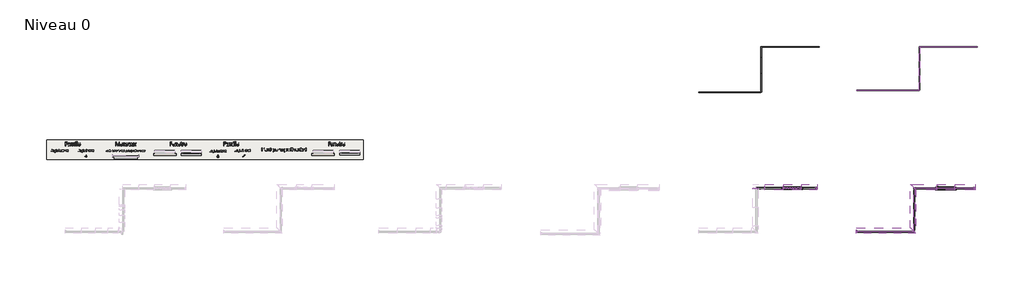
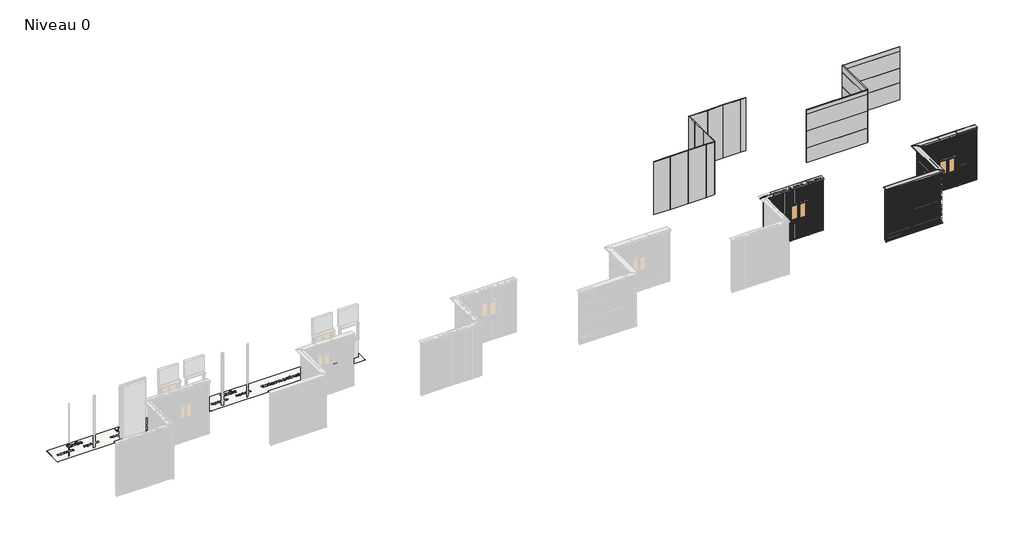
# One storey, part 3 of 11: 41 plates, 29 members, 2 doors, 1 slab.
"""IFC4 building model written with IfcOpenShell, lengths in millimetres."""

from ifc_helpers import new_model, si_unit, frame, origin, place, context, project, spatial, polyline, outline, extrude, transform, mapped, element, save
from components import door_b409336b, door_0b4cebd2, meneau_rectangulaire_6b71f10b, meneau_rectangulaire_8405fecf, meneau_rectangulaire_0b3fcaf2, meneau_rectangulaire_553c7b44, meneau_rectangulaire_d3c7e20c, meneau_rectangulaire_d9416821, meneau_rectangulaire_bee88b2e, meneau_rectangulaire_ce6fec79, meneau_rectangulaire_491e6442, meneau_rectangulaire_9f40be5e, meneau_rectangulaire_91452ccf, meneau_rectangulaire_bas_de_facade_ff95f192, meneau_rectangulaire_bas_de_facade_5461298e, meneau_rectangulaire_bas_de_facade_054009f9, meneau_rectangulaire_bas_de_facade_1d348fc8, meneau_rectangulaire_bas_de_facade_e5fd763a, meneau_rectangulaire_bas_de_facade_78978f85, meneau_rectangulaire_bas_de_facade_dee41482, meneau_rectangulaire_bas_de_facade_3b02e56c, meneau_rectangulaire_haut_de_facade_54da1b67, meneau_rectangulaire_haut_de_facade_ceb95911, meneau_rectangulaire_haut_de_facade_83064606, meneau_rectangulaire_haut_de_facade_178c63db, meneau_rectangulaire_haut_de_facade_870d9ed5, meneau_rectangulaire_haut_de_facade_2435eed7, meneau_rectangulaire_haut_de_facade_b95a2ae0, meneau_rectangulaire_haut_de_facade_bf85a0af, plate_5120cc5c, plate_49844953, plate_625db6d0, plate_4867db41, plate_2e5b18d4, plate_431ae45b, plate_deeb19b2, plate_08428244, plate_7a7fec68, plate_c9ebe30d, plate_4cf631f9, plate_eb6396ea, plate_7ffcf5e8, plate_bbb39bd2, plate_3f4dd61e, plate_1a5d1da6, plate_54f94469, plate_fe0d37fc, plate_24f3a5ca, plate_9217dd34, plate_2d8520f8, plate_d7f294a5, plate_44dc55b0, plate_702065da, plate_ffdc8044, plate_e4cf7329, plate_2c54484f, plate_bf433b23, plate_98138fe8, plate_133e5fcb, plate_95de40c8, plate_a48b8e76

model = new_model("IFC4")

# Units and contexts
model_context = context("Model", 3, world=origin())
ifc_project = project(units=[si_unit("LENGTHUNIT", "METRE", prefix="MILLI")], contexts=[model_context])

# Site, building, storey
site = spatial("IfcSite", under=ifc_project)
building = spatial("IfcBuilding", under=site)
storey = spatial("IfcBuildingStorey", under=building, Name="Niveau 0", Elevation=0.0)

# Doors
placement = place(None, origin())
door_shape = door_b409336b(model_context)
element("IfcDoor", 1, ObjectType="Fenetre pour Tenda V : Fenetre pour Tenda V", at=placement, inside=storey, context=model_context, shape_type="MappedRepresentation", body=[
    mapped(door_shape, transform((37696.6404896, -16882.8730274, 966.6666667), x_axis=(-1.0, 0.0, 0.0), y_axis=(0.0, -1.0, 0.0), z_axis=(0.0, 0.0, 1.0))),
])
door_2_shape = door_0b4cebd2(model_context)
element("IfcDoor", 2, ObjectType="Fenetre pour Tenda Horizontal : Fenetre pour Tenda H", at=placement, inside=storey, context=model_context, shape_type="MappedRepresentation", body=[
    mapped(door_2_shape, transform((45446.2392223, -16884.8319197, 743.0), x_axis=(-1.0, 0.0, 0.0), y_axis=(0.0, -1.0, 0.0), z_axis=(0.0, 0.0, 1.0))),
])

# Members
meneau_rectangulaire_shape = meneau_rectangulaire_6b71f10b(model_context)
element("IfcMember", 3, ObjectType="Meneau rectangulaire : Jonction contre mur Gauche H", at=placement, inside=storey, context=model_context, shape_type="MappedRepresentation", body=[
    mapped(meneau_rectangulaire_shape, transform((40939.5725557, -19085.1695288, 1887.0), x_axis=(-1.0, 0.0, 0.0), y_axis=(0.0, 1.0, 0.0), z_axis=(0.0, 0.0, -1.0))),
])
meneau_rectangulaire_2_shape = meneau_rectangulaire_8405fecf(model_context)
element("IfcMember", 4, ObjectType="Meneau rectangulaire : Jonction contre mur Gauche H", at=placement, inside=storey, context=model_context, shape_type="MappedRepresentation", body=[
    mapped(meneau_rectangulaire_2_shape, transform((40939.5725557, -19085.1695288, 959.0), x_axis=(-1.0, 0.0, 0.0), y_axis=(0.0, 1.0, 0.0), z_axis=(0.0, 0.0, -1.0))),
])
meneau_rectangulaire_3_shape = meneau_rectangulaire_0b3fcaf2(model_context)
element("IfcMember", 5, ObjectType="Meneau rectangulaire : Jonction contre mur Droite H", at=placement, inside=storey, context=model_context, shape_type="MappedRepresentation", body=[
    mapped(meneau_rectangulaire_3_shape, transform((46939.5725557, -16884.8319197, 2472.0), x_axis=(1.0, 0.0, 0.0), y_axis=(0.0, 1.0, 0.0), z_axis=(0.0, 0.0, 1.0))),
])
meneau_rectangulaire_4_shape = meneau_rectangulaire_553c7b44(model_context)
element("IfcMember", 6, ObjectType="Meneau rectangulaire : Jonction contre mur Droite H", at=placement, inside=storey, context=model_context, shape_type="MappedRepresentation", body=[
    mapped(meneau_rectangulaire_4_shape, transform((46939.5725557, -16884.8319197, 1671.0), x_axis=(1.0, 0.0, 0.0), y_axis=(0.0, 1.0, 0.0), z_axis=(0.0, 0.0, 1.0))),
])
meneau_rectangulaire_5_shape = meneau_rectangulaire_d3c7e20c(model_context)
element("IfcMember", 7, ObjectType="Meneau rectangulaire : Jonction contre mur Droite V", at=placement, inside=storey, context=model_context, shape_type="MappedRepresentation", body=[
    mapped(meneau_rectangulaire_5_shape, transform((38961.6404896, -16882.8730274, 1933.3333333), x_axis=(1.0, 0.0, 0.0), y_axis=(0.0, 1.0, 0.0), z_axis=(0.0, 0.0, 1.0))),
])
meneau_rectangulaire_6_shape = meneau_rectangulaire_d9416821(model_context)
element("IfcMember", 8, ObjectType="Meneau rectangulaire : Jonction contre mur Droite V", at=placement, inside=storey, context=model_context, shape_type="MappedRepresentation", body=[
    mapped(meneau_rectangulaire_6_shape, transform((38961.6404896, -16882.8730274, 966.6666667), x_axis=(1.0, 0.0, 0.0), y_axis=(0.0, 1.0, 0.0), z_axis=(0.0, 0.0, 1.0))),
])
meneau_rectangulaire_7_shape = meneau_rectangulaire_bee88b2e(model_context)
element("IfcMember", 9, ObjectType="Meneau rectangulaire : Jonction contre mur Droite H", at=placement, inside=storey, context=model_context, shape_type="MappedRepresentation", body=[
    mapped(meneau_rectangulaire_7_shape, transform((46939.5725557, -16884.8319197, 743.0), x_axis=(1.0, 0.0, 0.0), y_axis=(0.0, 1.0, 0.0), z_axis=(0.0, 0.0, 1.0))),
])
meneau_rectangulaire_8_shape = meneau_rectangulaire_ce6fec79(model_context)
element("IfcMember", 10, ObjectType="Meneau rectangulaire : Jonction contre mur Gauche H", at=placement, inside=storey, context=model_context, shape_type="MappedRepresentation", body=[
    mapped(meneau_rectangulaire_8_shape, transform((40939.5725557, -19085.1695288, 57.8548383), x_axis=(-1.0, 0.0, 0.0), y_axis=(0.0, 1.0, 0.0), z_axis=(0.0, 0.0, -1.0))),
])
meneau_rectangulaire_9_shape = meneau_rectangulaire_491e6442(model_context)
element("IfcMember", 11, ObjectType="Meneau rectangulaire : Jonction contre mur Droite V", at=placement, inside=storey, context=model_context, shape_type="MappedRepresentation", body=[
    mapped(meneau_rectangulaire_9_shape, transform((38961.6404896, -16882.8730274, 2819.0), x_axis=(1.0, 0.0, 0.0), y_axis=(0.0, 1.0, 0.0), z_axis=(0.0, 0.0, 1.0))),
])
meneau_rectangulaire_10_shape = meneau_rectangulaire_9f40be5e(model_context)
element("IfcMember", 12, ObjectType="Meneau rectangulaire : Jonction contre mur Gauche H", at=placement, inside=storey, context=model_context, shape_type="MappedRepresentation", body=[
    mapped(meneau_rectangulaire_10_shape, transform((40939.5725557, -19085.1695288, 2688.0), x_axis=(-1.0, 0.0, 0.0), y_axis=(0.0, 1.0, 0.0), z_axis=(0.0, 0.0, -1.0))),
])
meneau_rectangulaire_11_shape = meneau_rectangulaire_91452ccf(model_context)
element("IfcMember", 13, ObjectType="Meneau rectangulaire : Jonction contre mur Droite H", at=placement, inside=storey, context=model_context, shape_type="MappedRepresentation", body=[
    mapped(meneau_rectangulaire_11_shape, transform((46939.5725557, -16884.8319197, 2819.0), x_axis=(1.0, 0.0, 0.0), y_axis=(0.0, 1.0, 0.0), z_axis=(0.0, 0.0, 1.0))),
])
meneau_rectangulaire_bas_de_facade_shape = meneau_rectangulaire_bas_de_facade_ff95f192(model_context)
element("IfcMember", 14, ObjectType="Meneau rectangulaire : Bas de facade", at=placement, inside=storey, context=model_context, shape_type="MappedRepresentation", body=[
    mapped(meneau_rectangulaire_bas_de_facade_shape, transform((37232.6404896, -16882.8730274, 0.0), x_axis=(0.0, 0.0, -1.0), y_axis=(0.0, 1.0, 0.0), z_axis=(1.0, 0.0, 0.0))),
])
element("IfcMember", 15, ObjectType="Meneau rectangulaire : Bas de facade", at=placement, inside=storey, context=model_context, shape_type="MappedRepresentation", body=[
    mapped(meneau_rectangulaire_bas_de_facade_shape, transform((38160.6404896, -16882.8730274, 0.0), x_axis=(0.0, 0.0, -1.0), y_axis=(0.0, 1.0, 0.0), z_axis=(1.0, 0.0, 0.0))),
])
meneau_rectangulaire_bas_de_facade_2_shape = meneau_rectangulaire_bas_de_facade_5461298e(model_context)
element("IfcMember", 16, ObjectType="Meneau rectangulaire : Bas de facade", at=placement, inside=storey, context=model_context, shape_type="MappedRepresentation", body=[
    mapped(meneau_rectangulaire_bas_de_facade_2_shape, transform((45906.2392223, -16884.8319197, 0.0), x_axis=(0.0, 0.0, -1.0), y_axis=(0.0, 1.0, 0.0), z_axis=(1.0, 0.0, 0.0))),
])
meneau_rectangulaire_bas_de_facade_3_shape = meneau_rectangulaire_bas_de_facade_054009f9(model_context)
element("IfcMember", 17, ObjectType="Meneau rectangulaire : Bas de facade", at=placement, inside=storey, context=model_context, shape_type="MappedRepresentation", body=[
    mapped(meneau_rectangulaire_bas_de_facade_3_shape, transform((38961.6404896, -16882.8730274, 0.0), x_axis=(0.0, 0.0, -1.0), y_axis=(0.0, 1.0, 0.0), z_axis=(1.0, 0.0, 0.0))),
])
meneau_rectangulaire_bas_de_facade_4_shape = meneau_rectangulaire_bas_de_facade_1d348fc8(model_context)
element("IfcMember", 18, ObjectType="Meneau rectangulaire : Bas de facade", at=placement, inside=storey, context=model_context, shape_type="MappedRepresentation", body=[
    mapped(meneau_rectangulaire_bas_de_facade_4_shape, transform((46939.5725557, -16884.8319197, 0.0), x_axis=(0.0, 0.0, -1.0), y_axis=(0.0, 1.0, 0.0), z_axis=(1.0, 0.0, 0.0))),
])
meneau_rectangulaire_bas_de_facade_5_shape = meneau_rectangulaire_bas_de_facade_e5fd763a(model_context)
element("IfcMember", 19, ObjectType="Meneau rectangulaire : Bas de facade", at=placement, inside=storey, context=model_context, shape_type="MappedRepresentation", body=[
    mapped(meneau_rectangulaire_bas_de_facade_5_shape, transform((36304.6404896, -16882.8730274, 0.0), x_axis=(0.0, 0.0, -1.0), y_axis=(0.0, 1.0, 0.0), z_axis=(1.0, 0.0, 0.0))),
])
meneau_rectangulaire_bas_de_facade_6_shape = meneau_rectangulaire_bas_de_facade_78978f85(model_context)
element("IfcMember", 20, ObjectType="Meneau rectangulaire : Bas de facade", at=placement, inside=storey, context=model_context, shape_type="MappedRepresentation", body=[
    mapped(meneau_rectangulaire_bas_de_facade_6_shape, transform((43839.5725557, -19085.1695288, 0.0), x_axis=(0.0, 0.0, -1.0), y_axis=(0.0, 1.0, 0.0), z_axis=(1.0, 0.0, 0.0))),
])
meneau_rectangulaire_bas_de_facade_7_shape = meneau_rectangulaire_bas_de_facade_dee41482(model_context)
element("IfcMember", 21, ObjectType="Meneau rectangulaire : Bas de facade", at=placement, inside=storey, context=model_context, shape_type="MappedRepresentation", body=[
    mapped(meneau_rectangulaire_bas_de_facade_7_shape, transform((43839.5725557, -16884.8319197, 0.0), x_axis=(0.0, 0.0, -1.0), y_axis=(-1.0, 0.0, 0.0), z_axis=(0.0, 1.0, 0.0))),
])
meneau_rectangulaire_bas_de_facade_8_shape = meneau_rectangulaire_bas_de_facade_3b02e56c(model_context)
element("IfcMember", 22, ObjectType="Meneau rectangulaire : Bas de facade", at=placement, inside=storey, context=model_context, shape_type="MappedRepresentation", body=[
    mapped(meneau_rectangulaire_bas_de_facade_8_shape, transform((44986.2392223, -16884.8319197, 0.0), x_axis=(0.0, 0.0, -1.0), y_axis=(0.0, 1.0, 0.0), z_axis=(1.0, 0.0, 0.0))),
])
meneau_rectangulaire_haut_de_facade_shape = meneau_rectangulaire_haut_de_facade_54da1b67(model_context)
element("IfcMember", 23, ObjectType="Meneau rectangulaire : Haut de facade", at=placement, inside=storey, context=model_context, shape_type="MappedRepresentation", body=[
    mapped(meneau_rectangulaire_haut_de_facade_shape, transform((36304.6404896, -16882.8730274, 2900.0), x_axis=(0.0, 0.0, 1.0), y_axis=(0.0, 1.0, 0.0), z_axis=(-1.0, 0.0, 0.0))),
])
element("IfcMember", 24, ObjectType="Meneau rectangulaire : Haut de facade", at=placement, inside=storey, context=model_context, shape_type="MappedRepresentation", body=[
    mapped(meneau_rectangulaire_haut_de_facade_shape, transform((37232.6404896, -16882.8730274, 2900.0), x_axis=(0.0, 0.0, 1.0), y_axis=(0.0, 1.0, 0.0), z_axis=(-1.0, 0.0, 0.0))),
])
meneau_rectangulaire_haut_de_facade_2_shape = meneau_rectangulaire_haut_de_facade_ceb95911(model_context)
element("IfcMember", 25, ObjectType="Meneau rectangulaire : Haut de facade", at=placement, inside=storey, context=model_context, shape_type="MappedRepresentation", body=[
    mapped(meneau_rectangulaire_haut_de_facade_2_shape, transform((44986.2392223, -16884.8319197, 2900.0), x_axis=(0.0, 0.0, 1.0), y_axis=(0.0, 1.0, 0.0), z_axis=(-1.0, 0.0, 0.0))),
])
meneau_rectangulaire_haut_de_facade_3_shape = meneau_rectangulaire_haut_de_facade_83064606(model_context)
element("IfcMember", 26, ObjectType="Meneau rectangulaire : Haut de facade", at=placement, inside=storey, context=model_context, shape_type="MappedRepresentation", body=[
    mapped(meneau_rectangulaire_haut_de_facade_3_shape, transform((38160.6404896, -16882.8730274, 2900.0), x_axis=(0.0, 0.0, 1.0), y_axis=(0.0, 1.0, 0.0), z_axis=(-1.0, 0.0, 0.0))),
])
meneau_rectangulaire_haut_de_facade_4_shape = meneau_rectangulaire_haut_de_facade_178c63db(model_context)
element("IfcMember", 27, ObjectType="Meneau rectangulaire : Haut de facade", at=placement, inside=storey, context=model_context, shape_type="MappedRepresentation", body=[
    mapped(meneau_rectangulaire_haut_de_facade_4_shape, transform((45906.2392223, -16884.8319197, 2900.0), x_axis=(0.0, 0.0, 1.0), y_axis=(0.0, 1.0, 0.0), z_axis=(-1.0, 0.0, 0.0))),
])
meneau_rectangulaire_haut_de_facade_5_shape = meneau_rectangulaire_haut_de_facade_870d9ed5(model_context)
element("IfcMember", 28, ObjectType="Meneau rectangulaire : Haut de facade", at=placement, inside=storey, context=model_context, shape_type="MappedRepresentation", body=[
    mapped(meneau_rectangulaire_haut_de_facade_5_shape, transform((35861.6404896, -16957.7373975, 2900.0), x_axis=(0.0, 0.0, 1.0), y_axis=(-1.0, 0.0, 0.0), z_axis=(0.0, -1.0, 0.0))),
])
meneau_rectangulaire_haut_de_facade_6_shape = meneau_rectangulaire_haut_de_facade_2435eed7(model_context)
element("IfcMember", 29, ObjectType="Meneau rectangulaire : Haut de facade", at=placement, inside=storey, context=model_context, shape_type="MappedRepresentation", body=[
    mapped(meneau_rectangulaire_haut_de_facade_6_shape, transform((40939.5725557, -19085.1695288, 2900.0), x_axis=(0.0, 0.0, 1.0), y_axis=(0.0, 1.0, 0.0), z_axis=(-1.0, 0.0, 0.0))),
])
meneau_rectangulaire_haut_de_facade_7_shape = meneau_rectangulaire_haut_de_facade_b95a2ae0(model_context)
element("IfcMember", 30, ObjectType="Meneau rectangulaire : Haut de facade", at=placement, inside=storey, context=model_context, shape_type="MappedRepresentation", body=[
    mapped(meneau_rectangulaire_haut_de_facade_7_shape, transform((43839.5725557, -19085.1695288, 2900.0), x_axis=(0.0, 0.0, 1.0), y_axis=(-1.0, 0.0, 0.0), z_axis=(0.0, -1.0, 0.0))),
])
meneau_rectangulaire_haut_de_facade_8_shape = meneau_rectangulaire_haut_de_facade_bf85a0af(model_context)
element("IfcMember", 31, ObjectType="Meneau rectangulaire : Haut de facade", at=placement, inside=storey, context=model_context, shape_type="MappedRepresentation", body=[
    mapped(meneau_rectangulaire_haut_de_facade_8_shape, transform((43839.5725557, -16884.8319197, 2900.0), x_axis=(0.0, 0.0, 1.0), y_axis=(0.0, 1.0, 0.0), z_axis=(-1.0, 0.0, 0.0))),
])

# Plates
plate_shape = plate_5120cc5c(model_context)
element("IfcPlate", 32, ObjectType="Lod 200 Regolare 800 Horizontal : Azuro", at=placement, inside=storey, context=model_context, shape_type="MappedRepresentation", body=[
    mapped(plate_shape, transform((44108.0369394, -10835.83192, 0.0), x_axis=(0.0, 1.0, 0.0), y_axis=(-1.0, 0.0, 0.0), z_axis=(0.0, 0.0, 1.0))),
])
element("IfcPlate", 33, ObjectType="Lod 200 Regolare 800 Horizontal : Azuro", at=placement, inside=storey, context=model_context, shape_type="MappedRepresentation", body=[
    mapped(plate_shape, transform((44108.0369394, -10835.83192, 1730.0), x_axis=(0.0, 1.0, 0.0), y_axis=(-1.0, 0.0, 0.0), z_axis=(0.0, 0.0, 1.0))),
])
plate_2_shape = plate_49844953(model_context)
element("IfcPlate", 34, ObjectType="Lod 200 Regolare 800 Horizontal : Azuro", at=placement, inside=storey, context=model_context, shape_type="MappedRepresentation", body=[
    mapped(plate_2_shape, transform((44108.0369394, -10835.83192, 2530.0), x_axis=(0.0, 1.0, 0.0), y_axis=(-1.0, 0.0, 0.0), z_axis=(0.0, 0.0, 1.0))),
])
plate_3_shape = plate_625db6d0(model_context)
element("IfcPlate", 35, ObjectType="Lod 200 Regolare 800 Horizontal : Azuro", at=placement, inside=storey, context=model_context, shape_type="MappedRepresentation", body=[
    mapped(plate_3_shape, transform((42535.5369394, -11933.33192, 0.0), x_axis=(1.0, 0.0, 0.0), y_axis=(0.0, 1.0, 0.0), z_axis=(0.0, 0.0, 1.0))),
])
plate_4_shape = plate_4867db41(model_context)
element("IfcPlate", 36, ObjectType="Lod 200 Regolare 800 Horizontal : Azuro", at=placement, inside=storey, context=model_context, shape_type="MappedRepresentation", body=[
    mapped(plate_4_shape, transform((42535.5369394, -11933.33192, 2660.0), x_axis=(1.0, 0.0, 0.0), y_axis=(0.0, 1.0, 0.0), z_axis=(0.0, 0.0, 1.0))),
])
plate_5_shape = plate_2e5b18d4(model_context)
element("IfcPlate", 37, ObjectType="Lod 200 Ritmica 930 Horizontal : Azuro", at=placement, inside=storey, context=model_context, shape_type="MappedRepresentation", body=[
    mapped(plate_5_shape, transform((42535.5369394, -11933.33192, 800.0), x_axis=(1.0, 0.0, 0.0), y_axis=(0.0, 1.0, 0.0), z_axis=(0.0, 0.0, 1.0))),
])
element("IfcPlate", 38, ObjectType="Lod 200 Ritmica 930 Horizontal : Azuro", at=placement, inside=storey, context=model_context, shape_type="MappedRepresentation", body=[
    mapped(plate_5_shape, transform((42535.5369394, -11933.33192, 1730.0), x_axis=(1.0, 0.0, 0.0), y_axis=(0.0, 1.0, 0.0), z_axis=(0.0, 0.0, 1.0))),
])
plate_6_shape = plate_431ae45b(model_context)
element("IfcPlate", 39, ObjectType="Lod 200 Regolare 800 Horizontal : Azuro", at=placement, inside=storey, context=model_context, shape_type="MappedRepresentation", body=[
    mapped(plate_6_shape, transform((45603.2335943, -9733.33192, 2660.0), x_axis=(1.0, 0.0, 0.0), y_axis=(0.0, 1.0, 0.0), z_axis=(0.0, 0.0, 1.0))),
])
plate_7_shape = plate_deeb19b2(model_context)
element("IfcPlate", 40, ObjectType="Lod 200 Ritmica 930 Horizontal : Azuro", at=placement, inside=storey, context=model_context, shape_type="MappedRepresentation", body=[
    mapped(plate_7_shape, transform((45603.2335943, -9733.33192, 0.0), x_axis=(1.0, 0.0, 0.0), y_axis=(0.0, 1.0, 0.0), z_axis=(0.0, 0.0, 1.0))),
])
element("IfcPlate", 41, ObjectType="Lod 200 Ritmica 930 Horizontal : Azuro", at=placement, inside=storey, context=model_context, shape_type="MappedRepresentation", body=[
    mapped(plate_7_shape, transform((45603.2335943, -9733.33192, 1730.0), x_axis=(1.0, 0.0, 0.0), y_axis=(0.0, 1.0, 0.0), z_axis=(0.0, 0.0, 1.0))),
])
plate_8_shape = plate_08428244(model_context)
element("IfcPlate", 42, ObjectType="Lod 200 Ritmica 930 Vertical : Azuro", at=placement, inside=storey, context=model_context, shape_type="MappedRepresentation", body=[
    mapped(plate_8_shape, transform((34273.0369394, -12033.33192, 0.0), x_axis=(1.0, 0.0, 0.0), y_axis=(0.0, 1.0, 0.0), z_axis=(0.0, 0.0, 1.0))),
])
element("IfcPlate", 43, ObjectType="Lod 200 Ritmica 930 Vertical : Azuro", at=placement, inside=storey, context=model_context, shape_type="MappedRepresentation", body=[
    mapped(plate_8_shape, transform((35203.0369394, -12033.33192, 0.0), x_axis=(1.0, 0.0, 0.0), y_axis=(0.0, 1.0, 0.0), z_axis=(0.0, 0.0, 1.0))),
])
element("IfcPlate", 44, ObjectType="Lod 200 Ritmica 930 Vertical : Azuro", at=placement, inside=storey, context=model_context, shape_type="MappedRepresentation", body=[
    mapped(plate_8_shape, transform((36108.0369394, -11568.33192, 0.0), x_axis=(0.0, 1.0, 0.0), y_axis=(-1.0, 0.0, 0.0), z_axis=(0.0, 0.0, 1.0))),
])
element("IfcPlate", 45, ObjectType="Lod 200 Ritmica 930 Vertical : Azuro", at=placement, inside=storey, context=model_context, shape_type="MappedRepresentation", body=[
    mapped(plate_8_shape, transform((36613.0369394, -9733.33192, 0.0), x_axis=(1.0, 0.0, 0.0), y_axis=(0.0, 1.0, 0.0), z_axis=(0.0, 0.0, 1.0))),
])
element("IfcPlate", 46, ObjectType="Lod 200 Ritmica 930 Vertical : Azuro", at=placement, inside=storey, context=model_context, shape_type="MappedRepresentation", body=[
    mapped(plate_8_shape, transform((38343.0369394, -9733.33192, 0.0), x_axis=(1.0, 0.0, 0.0), y_axis=(0.0, 1.0, 0.0), z_axis=(0.0, 0.0, 1.0))),
])
plate_9_shape = plate_7a7fec68(model_context)
element("IfcPlate", 47, ObjectType="Lod 200 Regolare 800 Vertical : Azuro", at=placement, inside=storey, context=model_context, shape_type="MappedRepresentation", body=[
    mapped(plate_9_shape, transform((33385.5369394, -12033.33192, 0.0), x_axis=(1.0, 0.0, 0.0), y_axis=(0.0, 1.0, 0.0), z_axis=(0.0, 0.0, 1.0))),
])
plate_10_shape = plate_c9ebe30d(model_context)
element("IfcPlate", 48, ObjectType="Lod 200 Regolare 800 Vertical : Azuro", at=placement, inside=storey, context=model_context, shape_type="MappedRepresentation", body=[
    mapped(plate_10_shape, transform((35888.0369394, -12033.33192, 0.0), x_axis=(1.0, 0.0, 0.0), y_axis=(0.0, 1.0, 0.0), z_axis=(0.0, 0.0, 1.0))),
])
plate_11_shape = plate_4cf631f9(model_context)
element("IfcPlate", 49, ObjectType="Lod 200 Regolare 800 Vertical : Azuro", at=placement, inside=storey, context=model_context, shape_type="MappedRepresentation", body=[
    mapped(plate_11_shape, transform((36108.0369394, -10703.33192, 0.0), x_axis=(0.0, 1.0, 0.0), y_axis=(-1.0, 0.0, 0.0), z_axis=(0.0, 0.0, 1.0))),
])
element("IfcPlate", 50, ObjectType="Lod 200 Regolare 800 Vertical : Azuro", at=placement, inside=storey, context=model_context, shape_type="MappedRepresentation", body=[
    mapped(plate_11_shape, transform((37478.0369394, -9733.33192, 0.0), x_axis=(1.0, 0.0, 0.0), y_axis=(0.0, 1.0, 0.0), z_axis=(0.0, 0.0, 1.0))),
])
plate_12_shape = plate_eb6396ea(model_context)
element("IfcPlate", 51, ObjectType="Lod 200 Regolare 800 Vertical : Azuro", at=placement, inside=storey, context=model_context, shape_type="MappedRepresentation", body=[
    mapped(plate_12_shape, transform((36108.0369394, -10018.33192, 0.0), x_axis=(0.0, 1.0, 0.0), y_axis=(-1.0, 0.0, 0.0), z_axis=(0.0, 0.0, 1.0))),
])
plate_13_shape = plate_7ffcf5e8(model_context)
element("IfcPlate", 52, ObjectType="Lod 200 Regolare 800 Vertical : Azuro", at=placement, inside=storey, context=model_context, shape_type="MappedRepresentation", body=[
    mapped(plate_13_shape, transform((38930.7335943, -9733.33192, 0.0), x_axis=(1.0, 0.0, 0.0), y_axis=(0.0, 1.0, 0.0), z_axis=(0.0, 0.0, 1.0))),
])
plate_14_shape = plate_bbb39bd2(model_context)
element("IfcPlate", 53, ObjectType="Lod 200 Ritmica 930 Horizontal : Azuro", at=placement, inside=storey, context=model_context, shape_type="MappedRepresentation", body=[
    mapped(plate_14_shape, transform((44108.0369394, -10835.83192, 800.0), x_axis=(0.0, 1.0, 0.0), y_axis=(-1.0, 0.0, 0.0), z_axis=(0.0, 0.0, 1.0))),
])
plate_15_shape = plate_3f4dd61e(model_context)
element("IfcPlate", 54, ObjectType="Lod 200 Regolare 800 Horizontal : Azuro", at=placement, inside=storey, context=model_context, shape_type="MappedRepresentation", body=[
    mapped(plate_15_shape, transform((45603.2335943, -9733.33192, 930.0), x_axis=(1.0, 0.0, 0.0), y_axis=(0.0, 1.0, 0.0), z_axis=(0.0, 0.0, 1.0))),
])
plate_16_shape = plate_1a5d1da6(model_context)
element("IfcPlate", 55, ObjectType="Regolare Horizontal 801 : Regolare Horizontal 801", at=placement, inside=storey, context=model_context, shape_type="MappedRepresentation", body=[
    mapped(plate_16_shape, transform((42415.0725557, -19085.1695288, 1887.0), x_axis=(-1.0, 0.0, 0.0), y_axis=(0.0, -1.0, 0.0), z_axis=(0.0, 0.0, 1.0))),
])
plate_17_shape = plate_54f94469(model_context)
element("IfcPlate", 56, ObjectType="Regolare Horizontal 801 : Regolare Horizontal 801", at=placement, inside=storey, context=model_context, shape_type="MappedRepresentation", body=[
    mapped(plate_17_shape, transform((45364.0725557, -16884.8319197, 1671.0), x_axis=(-1.0, 0.0, 0.0), y_axis=(0.0, -1.0, 0.0), z_axis=(0.0, 0.0, 1.0))),
])
plate_18_shape = plate_fe0d37fc(model_context)
element("IfcPlate", 57, ObjectType="Regolare Horizontal 801 : Regolare Horizontal 801", at=placement, inside=storey, context=model_context, shape_type="MappedRepresentation", body=[
    mapped(plate_18_shape, transform((43839.5725557, -17985.0007243, 866.0), x_axis=(0.0, -1.0, 0.0), y_axis=(1.0, 0.0, 0.0), z_axis=(0.0, 0.0, 1.0))),
])
plate_19_shape = plate_24f3a5ca(model_context)
element("IfcPlate", 58, ObjectType="Regolare Horizontal 712 : Regolare Horizontal 712", at=placement, inside=storey, context=model_context, shape_type="MappedRepresentation", body=[
    mapped(plate_19_shape, transform((45364.0725557, -16884.8319197, 30.7239521), x_axis=(-1.0, 0.0, 0.0), y_axis=(0.0, -1.0, 0.0), z_axis=(0.0, 0.0, 1.0))),
])
plate_20_shape = plate_9217dd34(model_context)
element("IfcPlate", 59, ObjectType="Regolare Horizontal 356 : Regolare Horizontal 356", at=placement, inside=storey, context=model_context, shape_type="MappedRepresentation", body=[
    mapped(plate_20_shape, transform((45364.0725557, -16884.8319197, 2472.0), x_axis=(-1.0, 0.0, 0.0), y_axis=(0.0, -1.0, 0.0), z_axis=(0.0, 0.0, 1.0))),
])
plate_21_shape = plate_2d8520f8(model_context)
element("IfcPlate", 60, ObjectType="Regolare Horizontal 267 : Regolare Horizontal 267", at=placement, inside=storey, context=model_context, shape_type="MappedRepresentation", body=[
    mapped(plate_21_shape, transform((43839.5725557, -17985.0007243, 2595.0), x_axis=(0.0, -1.0, 0.0), y_axis=(1.0, 0.0, 0.0), z_axis=(0.0, 0.0, 1.0))),
])
plate_22_shape = plate_d7f294a5(model_context)
element("IfcPlate", 61, ObjectType="Regolare Horizontal 178 : Regolare Horizontal 178", at=placement, inside=storey, context=model_context, shape_type="MappedRepresentation", body=[
    mapped(plate_22_shape, transform((42415.0725557, -19085.1695288, 2688.0), x_axis=(-1.0, 0.0, 0.0), y_axis=(0.0, -1.0, 0.0), z_axis=(0.0, 0.0, 1.0))),
])
plate_23_shape = plate_44dc55b0(model_context)
element("IfcPlate", 62, ObjectType="Regolare Vertical 712 : Regolare Vertical 712", at=placement, inside=storey, context=model_context, shape_type="MappedRepresentation", body=[
    mapped(plate_23_shape, transform((38513.3061687, -16882.8730274, 30.7239521), x_axis=(-1.0, 0.0, 0.0), y_axis=(0.0, -1.0, 0.0), z_axis=(0.0, 0.0, 1.0))),
])
plate_24_shape = plate_702065da(model_context)
element("IfcPlate", 63, ObjectType="Regolare Vertical 445 : Regolare Vertical 445", at=placement, inside=storey, context=model_context, shape_type="MappedRepresentation", body=[
    mapped(plate_24_shape, transform((36083.1404896, -16882.8730274, 30.7239521), x_axis=(-1.0, 0.0, 0.0), y_axis=(0.0, -1.0, 0.0), z_axis=(0.0, 0.0, 1.0))),
])
plate_25_shape = plate_ffdc8044(model_context)
element("IfcPlate", 64, ObjectType="Ritmica Vertical 928 : Ritmica Vertical 928", at=placement, inside=storey, context=model_context, shape_type="MappedRepresentation", body=[
    mapped(plate_25_shape, transform((37696.6404896, -16882.8730274, 30.7239521), x_axis=(-1.0, 0.0, 0.0), y_axis=(0.0, -1.0, 0.0), z_axis=(0.0, 0.0, 1.0))),
])
plate_26_shape = plate_e4cf7329(model_context)
element("IfcPlate", 65, ObjectType="Ritmica Vertical 928 : Ritmica Vertical 928", at=placement, inside=storey, context=model_context, shape_type="MappedRepresentation", body=[
    mapped(plate_26_shape, transform((37696.6404896, -16882.8730274, 1933.3333333), x_axis=(-1.0, 0.0, 0.0), y_axis=(0.0, -1.0, 0.0), z_axis=(0.0, 0.0, 1.0))),
])
plate_27_shape = plate_2c54484f(model_context)
element("IfcPlate", 66, ObjectType="Ritmica Vertical 928 : Ritmica Vertical 928", at=placement, inside=storey, context=model_context, shape_type="MappedRepresentation", body=[
    mapped(plate_27_shape, transform((36768.6404896, -16882.8730274, 30.7239521), x_axis=(-1.0, 0.0, 0.0), y_axis=(0.0, -1.0, 0.0), z_axis=(0.0, 0.0, 1.0))),
])
plate_28_shape = plate_bf433b23(model_context)
element("IfcPlate", 67, ObjectType="Ritmica Horizontal 928 : Ritmica Horizontal 928", at=placement, inside=storey, context=model_context, shape_type="MappedRepresentation", body=[
    mapped(plate_28_shape, transform((43839.5725557, -17985.0007243, 1667.0), x_axis=(0.0, -1.0, 0.0), y_axis=(1.0, 0.0, 0.0), z_axis=(0.0, 0.0, 1.0))),
])
plate_29_shape = plate_98138fe8(model_context)
element("IfcPlate", 68, ObjectType="Ritmica Horizontal 928 : Ritmica Horizontal 928", at=placement, inside=storey, context=model_context, shape_type="MappedRepresentation", body=[
    mapped(plate_29_shape, transform((46397.405889, -16884.8319197, 743.0), x_axis=(-1.0, 0.0, 0.0), y_axis=(0.0, -1.0, 0.0), z_axis=(0.0, 0.0, 1.0))),
])
plate_30_shape = plate_133e5fcb(model_context)
element("IfcPlate", 69, ObjectType="Ritmica Horizontal 928 : Ritmica Horizontal 928", at=placement, inside=storey, context=model_context, shape_type="MappedRepresentation", body=[
    mapped(plate_30_shape, transform((44412.905889, -16884.8319197, 743.0), x_axis=(-1.0, 0.0, 0.0), y_axis=(0.0, -1.0, 0.0), z_axis=(0.0, 0.0, 1.0))),
])
plate_31_shape = plate_95de40c8(model_context)
element("IfcPlate", 70, ObjectType="Ritmica Horizontal 928 : Ritmica Horizontal 928", at=placement, inside=storey, context=model_context, shape_type="MappedRepresentation", body=[
    mapped(plate_31_shape, transform((42415.0725557, -19085.1695288, 30.7239521), x_axis=(-1.0, 0.0, 0.0), y_axis=(0.0, -1.0, 0.0), z_axis=(0.0, 0.0, 1.0))),
])
element("IfcPlate", 71, ObjectType="Ritmica Horizontal 928 : Ritmica Horizontal 928", at=placement, inside=storey, context=model_context, shape_type="MappedRepresentation", body=[
    mapped(plate_31_shape, transform((42415.0725557, -19085.1695288, 959.0), x_axis=(-1.0, 0.0, 0.0), y_axis=(0.0, -1.0, 0.0), z_axis=(0.0, 0.0, 1.0))),
])
plate_32_shape = plate_a48b8e76(model_context)
element("IfcPlate", 72, ObjectType="Ritmica Horizontal 834 : Ritmica Horizontal 831", at=placement, inside=storey, context=model_context, shape_type="MappedRepresentation", body=[
    mapped(plate_32_shape, transform((43839.5725557, -17985.0007243, 30.7239521), x_axis=(0.0, -1.0, 0.0), y_axis=(1.0, 0.0, 0.0), z_axis=(0.0, 0.0, 1.0))),
])

# Slab
element("IfcSlab", 73, ObjectType="Support", at=placement, inside=storey, context=model_context, shape_type="SweptSolid", body=[
    extrude(outline(polyline([(8008.0369394, -14460.83192), (16008.0369394, -14460.83192), (16008.0369394, -15446.8376106), (8008.0369394, -15446.8376106), (8.0369394, -15446.8376106), (8.0369394, -14460.83192), (8008.0369394, -14460.83192)])), frame((0.0, 0.0, -20.0), z_axis=(0.0, 0.0, 1.0), x_axis=(1.0, 0.0, 0.0)), (0.0, 0.0, 1.0), 20.0),
])

save(model, "model.ifc")
